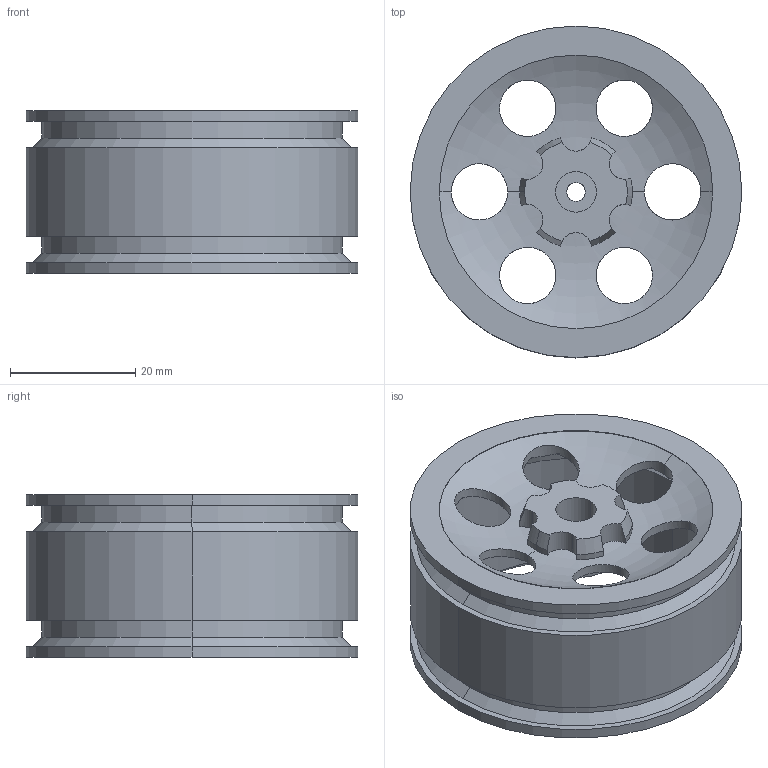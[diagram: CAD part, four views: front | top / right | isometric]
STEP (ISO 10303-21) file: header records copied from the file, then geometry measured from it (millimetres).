
FILE_DESCRIPTION (( 'STEP AP214' ), '1' );
FILE_NAME ('Ì44_ÏÌ_Äèñê ÌÓÄ.STEP', '2019-03-21T14:00:39', ( '' ), ( '' ), 'SwSTEP 2.0', 'SolidWorks 2018', '' );
FILE_SCHEMA (( 'AUTOMOTIVE_DESIGN' ));
Length unit declared in the file: millimetre
Products named in the file (1): Ì44_ÏÌ_Äèñê ÌÓÄ
Bounding box: 53 x 53 x 26 mm (x, y, z)
Volume: 18472.8 mm3; surface area: 12913.1 mm2
Topology: 1 solids, 1 shells, 83 faces, 226 edges, 144 vertices
Faces by surface type: cylinder 47, plane 17, cone 15, torus 4
Entity records: 3650 total; most frequent: CARTESIAN_POINT 1516, ORIENTED_EDGE 452, DIRECTION 436, EDGE_CURVE 226, AXIS2_PLACEMENT_3D 182, VERTEX_POINT 144, CIRCLE 98, EDGE_LOOP 96
